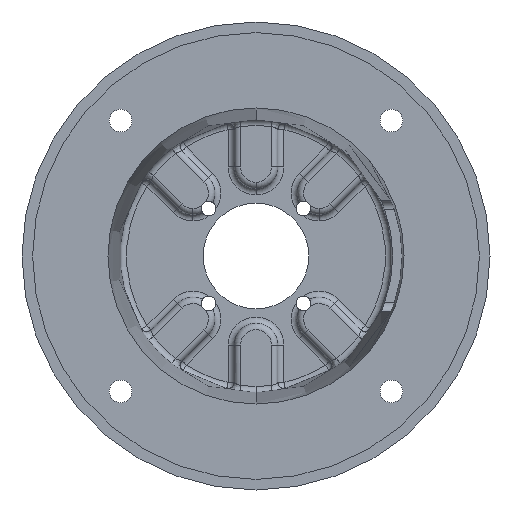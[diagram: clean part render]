
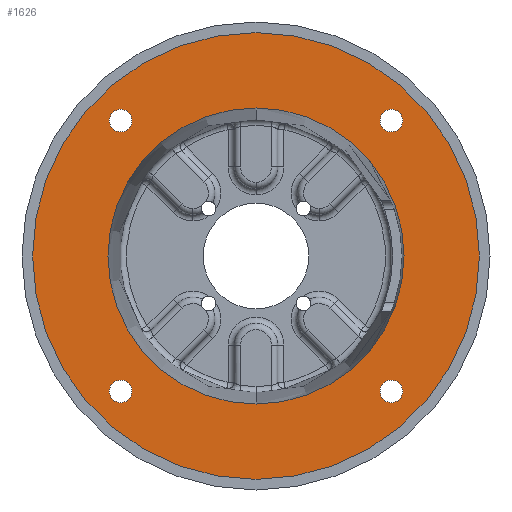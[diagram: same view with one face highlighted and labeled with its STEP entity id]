
A CAD part, front view. The second image highlights one B-rep face of the part: STEP entity #1626.
In plain terms, the highlighted planar face has unit normal (0, -1, 0).
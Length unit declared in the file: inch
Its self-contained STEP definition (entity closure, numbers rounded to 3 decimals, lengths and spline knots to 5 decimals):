
#2 = CARTESIAN_POINT ( 'NONE',  ( 0., 0.18, -5.2505 ) ) ;
#58 = CARTESIAN_POINT ( 'NONE',  ( 0., 0.18, 3.47973 ) ) ;
#69 = CARTESIAN_POINT ( 'NONE',  ( -3.18198, 0.18, 2.91636 ) ) ;
#76 = DIRECTION ( 'NONE',  ( 0., 0., -1. ) ) ;
#334 = PLANE ( 'NONE',  #2353 ) ;
#386 = CARTESIAN_POINT ( 'NONE',  ( 3.18198, 0.18, -2.91636 ) ) ;
#432 = CIRCLE ( 'NONE', #3757, 5.2505 ) ;
#478 = CARTESIAN_POINT ( 'NONE',  ( -3.18198, 0.18, -2.91636 ) ) ;
#678 = ORIENTED_EDGE ( 'NONE', *, *, #6427, .F. ) ;
#769 = DIRECTION ( 'NONE',  ( 0., -1., 0. ) ) ;
#804 = AXIS2_PLACEMENT_3D ( 'NONE', #11596, #4979, #12682 ) ;
#977 = FACE_OUTER_BOUND ( 'NONE', #8504, .T. ) ;
#1020 = DIRECTION ( 'NONE',  ( 0., 0., -1. ) ) ;
#1022 = CIRCLE ( 'NONE', #804, 0.26562 ) ;
#1310 = CARTESIAN_POINT ( 'NONE',  ( 3.18198, 0.18, 2.91636 ) ) ;
#1388 = VERTEX_POINT ( 'NONE', #58 ) ;
#1560 = DIRECTION ( 'NONE',  ( 0., 0., -1. ) ) ;
#1607 = DIRECTION ( 'NONE',  ( 0., -1., 0. ) ) ;
#1626 = ADVANCED_FACE ( 'NONE', ( #9877, #4324, #6960, #3971, #977, #12433 ), #334, .T. ) ;
#1654 = CARTESIAN_POINT ( 'NONE',  ( -3.18198, 0.18, 3.18198 ) ) ;
#1734 = EDGE_CURVE ( 'NONE', #9441, #10125, #8509, .T. ) ;
#1913 = EDGE_LOOP ( 'NONE', ( #9933, #13784 ) ) ;
#2353 = AXIS2_PLACEMENT_3D ( 'NONE', #8489, #9730, #9632 ) ;
#2496 = CARTESIAN_POINT ( 'NONE',  ( -3.18198, 0.18, -3.18198 ) ) ;
#2560 = DIRECTION ( 'NONE',  ( 0., -1., 0. ) ) ;
#2760 = ORIENTED_EDGE ( 'NONE', *, *, #7102, .F. ) ;
#2846 = AXIS2_PLACEMENT_3D ( 'NONE', #9247, #2560, #10342 ) ;
#2921 = VERTEX_POINT ( 'NONE', #386 ) ;
#2986 = EDGE_CURVE ( 'NONE', #12581, #7110, #432, .T. ) ;
#3022 = DIRECTION ( 'NONE',  ( 0., -1., 0. ) ) ;
#3516 = EDGE_LOOP ( 'NONE', ( #10964, #6038 ) ) ;
#3594 = CARTESIAN_POINT ( 'NONE',  ( 3.18198, 0.18, 3.18198 ) ) ;
#3647 = DIRECTION ( 'NONE',  ( 0., 0., -1. ) ) ;
#3757 = AXIS2_PLACEMENT_3D ( 'NONE', #7494, #769, #8614 ) ;
#3856 = EDGE_LOOP ( 'NONE', ( #10704, #12394 ) ) ;
#3971 = FACE_BOUND ( 'NONE', #1913, .T. ) ;
#4132 = CARTESIAN_POINT ( 'NONE',  ( 0., 0.18, 0. ) ) ;
#4324 = FACE_BOUND ( 'NONE', #5946, .T. ) ;
#4347 = ORIENTED_EDGE ( 'NONE', *, *, #9953, .T. ) ;
#4704 = DIRECTION ( 'NONE',  ( 0., 0., -1. ) ) ;
#4805 = VERTEX_POINT ( 'NONE', #1310 ) ;
#4815 = AXIS2_PLACEMENT_3D ( 'NONE', #13333, #6813, #76 ) ;
#4866 = DIRECTION ( 'NONE',  ( 0., -1., 0. ) ) ;
#4979 = DIRECTION ( 'NONE',  ( 0., -1., 0. ) ) ;
#4984 = CIRCLE ( 'NONE', #14035, 0.26562 ) ;
#5034 = CIRCLE ( 'NONE', #12156, 0.26562 ) ;
#5156 = CARTESIAN_POINT ( 'NONE',  ( 0., 0.18, -3.47973 ) ) ;
#5238 = DIRECTION ( 'NONE',  ( 0., 0., -1. ) ) ;
#5296 = DIRECTION ( 'NONE',  ( 0., -1., 0. ) ) ;
#5330 = AXIS2_PLACEMENT_3D ( 'NONE', #1654, #1607, #1560 ) ;
#5946 = EDGE_LOOP ( 'NONE', ( #678, #7437 ) ) ;
#6038 = ORIENTED_EDGE ( 'NONE', *, *, #11422, .F. ) ;
#6301 = VERTEX_POINT ( 'NONE', #11369 ) ;
#6427 = EDGE_CURVE ( 'NONE', #4805, #6301, #1022, .T. ) ;
#6710 = CIRCLE ( 'NONE', #2846, 0.26562 ) ;
#6813 = DIRECTION ( 'NONE',  ( 0., -1., 0. ) ) ;
#6960 = FACE_BOUND ( 'NONE', #10110, .T. ) ;
#7102 = EDGE_CURVE ( 'NONE', #2921, #10048, #5034, .T. ) ;
#7110 = VERTEX_POINT ( 'NONE', #8581 ) ;
#7437 = ORIENTED_EDGE ( 'NONE', *, *, #13428, .F. ) ;
#7494 = CARTESIAN_POINT ( 'NONE',  ( 0., 0.18, 0. ) ) ;
#7728 = DIRECTION ( 'NONE',  ( 0., 1., 0. ) ) ;
#7985 = CIRCLE ( 'NONE', #11891, 0.26562 ) ;
#8489 = CARTESIAN_POINT ( 'NONE',  ( 0., 0.18, 0. ) ) ;
#8504 = EDGE_LOOP ( 'NONE', ( #13365, #4347 ) ) ;
#8509 = CIRCLE ( 'NONE', #5330, 0.26562 ) ;
#8581 = CARTESIAN_POINT ( 'NONE',  ( 0., 0.18, 5.2505 ) ) ;
#8614 = DIRECTION ( 'NONE',  ( 0., 0., -1. ) ) ;
#9024 = CIRCLE ( 'NONE', #10445, 0.26562 ) ;
#9059 = VERTEX_POINT ( 'NONE', #13116 ) ;
#9247 = CARTESIAN_POINT ( 'NONE',  ( 3.18198, 0.18, -3.18198 ) ) ;
#9281 = EDGE_CURVE ( 'NONE', #1388, #9536, #9315, .T. ) ;
#9315 = CIRCLE ( 'NONE', #10720, 3.47973 ) ;
#9441 = VERTEX_POINT ( 'NONE', #69 ) ;
#9536 = VERTEX_POINT ( 'NONE', #5156 ) ;
#9632 = DIRECTION ( 'NONE',  ( 0., 0., -1. ) ) ;
#9673 = CARTESIAN_POINT ( 'NONE',  ( 3.18198, 0.18, -3.18198 ) ) ;
#9730 = DIRECTION ( 'NONE',  ( 0., -1., 0. ) ) ;
#9877 = FACE_BOUND ( 'NONE', #3516, .T. ) ;
#9933 = ORIENTED_EDGE ( 'NONE', *, *, #13387, .F. ) ;
#9953 = EDGE_CURVE ( 'NONE', #7110, #12581, #12534, .T. ) ;
#10048 = VERTEX_POINT ( 'NONE', #13156 ) ;
#10110 = EDGE_LOOP ( 'NONE', ( #12781, #2760 ) ) ;
#10125 = VERTEX_POINT ( 'NONE', #11480 ) ;
#10211 = VERTEX_POINT ( 'NONE', #478 ) ;
#10286 = DIRECTION ( 'NONE',  ( 0., -1., 0. ) ) ;
#10342 = DIRECTION ( 'NONE',  ( 0., 0., -1. ) ) ;
#10445 = AXIS2_PLACEMENT_3D ( 'NONE', #11484, #4866, #12567 ) ;
#10704 = ORIENTED_EDGE ( 'NONE', *, *, #12933, .T. ) ;
#10720 = AXIS2_PLACEMENT_3D ( 'NONE', #4132, #11855, #5238 ) ;
#10770 = DIRECTION ( 'NONE',  ( 0., 0., -1. ) ) ;
#10910 = AXIS2_PLACEMENT_3D ( 'NONE', #11910, #5296, #12982 ) ;
#10964 = ORIENTED_EDGE ( 'NONE', *, *, #1734, .F. ) ;
#11044 = EDGE_CURVE ( 'NONE', #10048, #2921, #6710, .T. ) ;
#11320 = DIRECTION ( 'NONE',  ( 0., -1., 0. ) ) ;
#11369 = CARTESIAN_POINT ( 'NONE',  ( 3.18198, 0.18, 3.44761 ) ) ;
#11422 = EDGE_CURVE ( 'NONE', #10125, #9441, #12366, .T. ) ;
#11480 = CARTESIAN_POINT ( 'NONE',  ( -3.18198, 0.18, 3.44761 ) ) ;
#11484 = CARTESIAN_POINT ( 'NONE',  ( -3.18198, 0.18, -3.18198 ) ) ;
#11596 = CARTESIAN_POINT ( 'NONE',  ( 3.18198, 0.18, 3.18198 ) ) ;
#11855 = DIRECTION ( 'NONE',  ( 0., 1., 0. ) ) ;
#11891 = AXIS2_PLACEMENT_3D ( 'NONE', #3594, #11320, #4704 ) ;
#11910 = CARTESIAN_POINT ( 'NONE',  ( 0., 0.18, 0. ) ) ;
#12156 = AXIS2_PLACEMENT_3D ( 'NONE', #9673, #3022, #10770 ) ;
#12366 = CIRCLE ( 'NONE', #4815, 0.26562 ) ;
#12394 = ORIENTED_EDGE ( 'NONE', *, *, #9281, .T. ) ;
#12433 = FACE_BOUND ( 'NONE', #3856, .T. ) ;
#12534 = CIRCLE ( 'NONE', #10910, 5.2505 ) ;
#12567 = DIRECTION ( 'NONE',  ( 0., 0., -1. ) ) ;
#12581 = VERTEX_POINT ( 'NONE', #2 ) ;
#12682 = DIRECTION ( 'NONE',  ( 0., 0., -1. ) ) ;
#12781 = ORIENTED_EDGE ( 'NONE', *, *, #11044, .F. ) ;
#12933 = EDGE_CURVE ( 'NONE', #9536, #1388, #14246, .T. ) ;
#12982 = DIRECTION ( 'NONE',  ( 0., 0., -1. ) ) ;
#13116 = CARTESIAN_POINT ( 'NONE',  ( -3.18198, 0.18, -3.44761 ) ) ;
#13138 = AXIS2_PLACEMENT_3D ( 'NONE', #14214, #7728, #1020 ) ;
#13156 = CARTESIAN_POINT ( 'NONE',  ( 3.18198, 0.18, -3.44761 ) ) ;
#13333 = CARTESIAN_POINT ( 'NONE',  ( -3.18198, 0.18, 3.18198 ) ) ;
#13365 = ORIENTED_EDGE ( 'NONE', *, *, #2986, .T. ) ;
#13387 = EDGE_CURVE ( 'NONE', #9059, #10211, #9024, .T. ) ;
#13428 = EDGE_CURVE ( 'NONE', #6301, #4805, #7985, .T. ) ;
#13465 = EDGE_CURVE ( 'NONE', #10211, #9059, #4984, .T. ) ;
#13784 = ORIENTED_EDGE ( 'NONE', *, *, #13465, .F. ) ;
#14035 = AXIS2_PLACEMENT_3D ( 'NONE', #2496, #10286, #3647 ) ;
#14214 = CARTESIAN_POINT ( 'NONE',  ( 0., 0.18, 0. ) ) ;
#14246 = CIRCLE ( 'NONE', #13138, 3.47973 ) ;
